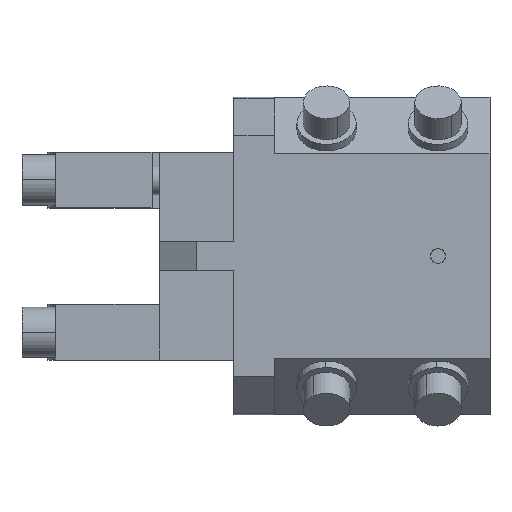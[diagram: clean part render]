
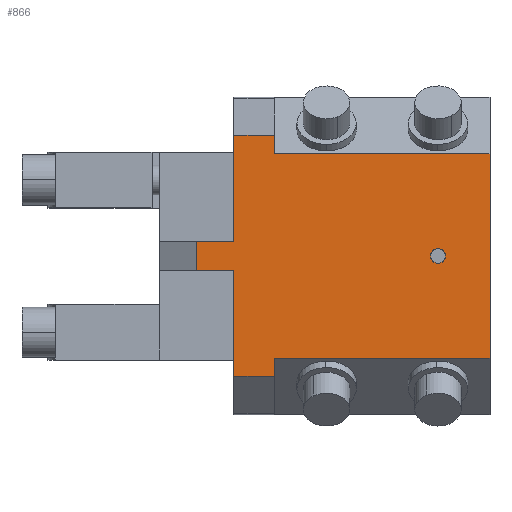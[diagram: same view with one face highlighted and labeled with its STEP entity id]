
A CAD part, top view. The second image highlights one B-rep face of the part: STEP entity #866.
In plain terms, the highlighted planar face has unit normal (0, 0, 1).
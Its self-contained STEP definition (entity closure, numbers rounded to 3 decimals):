
#866=ADVANCED_FACE('Solid.24',(#2068,#2069),#2070,.T.);
#2068=FACE_OUTER_BOUND('',#3757,.T.);
#2069=FACE_BOUND('',#3758,.T.);
#2070=PLANE('',#3759);
#3757=EDGE_LOOP('',(#5837,#5838,#5839,#5840,#5841,#5842,#5843,#5844,#5845,#5846,#5847,#5848));
#3758=EDGE_LOOP('',(#5849,#5850,#5851,#5852));
#3759=AXIS2_PLACEMENT_3D('',#5853,#5854,#5855);
#5837=ORIENTED_EDGE('',*,*,#10068,.T.);
#5838=ORIENTED_EDGE('',*,*,#10069,.T.);
#5839=ORIENTED_EDGE('',*,*,#10070,.F.);
#5840=ORIENTED_EDGE('',*,*,#10071,.F.);
#5841=ORIENTED_EDGE('',*,*,#10072,.T.);
#5842=ORIENTED_EDGE('',*,*,#10073,.T.);
#5843=ORIENTED_EDGE('',*,*,#10074,.F.);
#5844=ORIENTED_EDGE('',*,*,#10075,.F.);
#5845=ORIENTED_EDGE('',*,*,#10047,.T.);
#5846=ORIENTED_EDGE('',*,*,#10042,.T.);
#5847=ORIENTED_EDGE('',*,*,#10064,.F.);
#5848=ORIENTED_EDGE('',*,*,#10076,.F.);
#5849=ORIENTED_EDGE('',*,*,#9729,.F.);
#5850=ORIENTED_EDGE('',*,*,#9723,.F.);
#5851=ORIENTED_EDGE('',*,*,#10077,.F.);
#5852=ORIENTED_EDGE('',*,*,#10078,.F.);
#5853=CARTESIAN_POINT('',(75.0,27.5,49.5));
#5854=DIRECTION('',(-0.0,0.0,1.0));
#5855=DIRECTION('',(0.0,-1.0,0.0));
#9723=EDGE_CURVE('',#11559,#11562,#11563,.T.);
#9729=EDGE_CURVE('',#11562,#11569,#11572,.T.);
#10042=EDGE_CURVE('',#12062,#12063,#12064,.T.);
#10047=EDGE_CURVE('',#12070,#12062,#12071,.F.);
#10064=EDGE_CURVE('',#12096,#12063,#12098,.F.);
#10068=EDGE_CURVE('',#12103,#12104,#12105,.T.);
#10069=EDGE_CURVE('',#12104,#12106,#12107,.T.);
#10070=EDGE_CURVE('',#12108,#12106,#12109,.F.);
#10071=EDGE_CURVE('',#12110,#12108,#12111,.T.);
#10072=EDGE_CURVE('',#12110,#12112,#12113,.F.);
#10073=EDGE_CURVE('',#12112,#12114,#12115,.T.);
#10074=EDGE_CURVE('',#12116,#12114,#12117,.T.);
#10075=EDGE_CURVE('',#12070,#12116,#12118,.T.);
#10076=EDGE_CURVE('',#12103,#12096,#12119,.T.);
#10077=EDGE_CURVE('',#12120,#11559,#12121,.T.);
#10078=EDGE_CURVE('',#11569,#12120,#12122,.T.);
#11559=VERTEX_POINT('',#14297);
#11562=VERTEX_POINT('',#14301);
#11563=CIRCLE('',#14302,2.0);
#11569=VERTEX_POINT('',#14309);
#11572=CIRCLE('',#14313,2.0);
#12062=VERTEX_POINT('',#15754);
#12063=VERTEX_POINT('',#15755);
#12064=LINE('',#15756,#15757);
#12070=VERTEX_POINT('',#15766);
#12071=LINE('',#15767,#15768);
#12096=VERTEX_POINT('',#15818);
#12098=LINE('',#15821,#15822);
#12103=VERTEX_POINT('',#15828);
#12104=VERTEX_POINT('',#15829);
#12105=LINE('',#15830,#15831);
#12106=VERTEX_POINT('',#15832);
#12107=LINE('',#15833,#15834);
#12108=VERTEX_POINT('',#15835);
#12109=LINE('',#15836,#15837);
#12110=VERTEX_POINT('',#15838);
#12111=LINE('',#15839,#15840);
#12112=VERTEX_POINT('',#15841);
#12113=LINE('',#15842,#15843);
#12114=VERTEX_POINT('',#15844);
#12115=LINE('',#15845,#15846);
#12116=VERTEX_POINT('',#15847);
#12117=LINE('',#15848,#15849);
#12118=LINE('',#15850,#15851);
#12119=LINE('',#15852,#15853);
#12120=VERTEX_POINT('',#15854);
#12121=CIRCLE('',#15855,2.0);
#12122=CIRCLE('',#15856,2.0);
#14297=CARTESIAN_POINT('',(73.0,0.,49.5));
#14301=CARTESIAN_POINT('',(73.245,-0.959,49.5));
#14302=AXIS2_PLACEMENT_3D('',#19224,#19225,#19226);
#14309=CARTESIAN_POINT('',(77.0,0.,49.5));
#14313=AXIS2_PLACEMENT_3D('',#19235,#19236,#19237);
#15754=CARTESIAN_POINT('',(31.0,32.438,49.5));
#15755=CARTESIAN_POINT('',(20.0,32.438,49.5));
#15756=CARTESIAN_POINT('',(25.5,32.438,49.5));
#15757=VECTOR('',#19609,1.0);
#15766=CARTESIAN_POINT('',(31.0,27.5,49.5));
#15767=CARTESIAN_POINT('',(31.0,29.969,49.5));
#15768=VECTOR('',#19613,1.0);
#15818=CARTESIAN_POINT('',(20.0,4.0,49.5));
#15821=CARTESIAN_POINT('',(20.0,18.219,49.5));
#15822=VECTOR('',#19626,1.0);
#15828=CARTESIAN_POINT('',(10.0,4.0,49.5));
#15829=CARTESIAN_POINT('',(10.0,-4.0,49.5));
#15830=CARTESIAN_POINT('',(10.0,0.0,49.5));
#15831=VECTOR('',#19631,1.0);
#15832=CARTESIAN_POINT('',(20.0,-4.0,49.5));
#15833=CARTESIAN_POINT('',(15.0,-4.0,49.5));
#15834=VECTOR('',#19632,1.0);
#15835=CARTESIAN_POINT('',(20.0,-32.438,49.5));
#15836=CARTESIAN_POINT('',(20.0,-18.219,49.5));
#15837=VECTOR('',#19633,1.0);
#15838=CARTESIAN_POINT('',(31.0,-32.438,49.5));
#15839=CARTESIAN_POINT('',(25.5,-32.438,49.5));
#15840=VECTOR('',#19634,1.0);
#15841=CARTESIAN_POINT('',(31.0,-27.5,49.5));
#15842=CARTESIAN_POINT('',(31.0,-29.969,49.5));
#15843=VECTOR('',#19635,1.0);
#15844=CARTESIAN_POINT('',(89.0,-27.5,49.5));
#15845=CARTESIAN_POINT('',(60.0,-27.5,49.5));
#15846=VECTOR('',#19636,1.0);
#15847=CARTESIAN_POINT('',(89.0,27.5,49.5));
#15848=CARTESIAN_POINT('',(89.0,0.0,49.5));
#15849=VECTOR('',#19637,1.0);
#15850=CARTESIAN_POINT('',(60.0,27.5,49.5));
#15851=VECTOR('',#19638,1.0);
#15852=CARTESIAN_POINT('',(15.0,4.0,49.5));
#15853=VECTOR('',#19639,1.0);
#15854=CARTESIAN_POINT('',(76.755,0.959,49.5));
#15855=AXIS2_PLACEMENT_3D('',#19640,#19641,#19642);
#15856=AXIS2_PLACEMENT_3D('',#19643,#19644,#19645);
#19224=CARTESIAN_POINT('',(75.0,0.,49.5));
#19225=DIRECTION('',(-0.0,0.0,1.0));
#19226=DIRECTION('',(0.0,-1.0,0.0));
#19235=CARTESIAN_POINT('',(75.0,0.,49.5));
#19236=DIRECTION('',(-0.0,0.0,1.0));
#19237=DIRECTION('',(0.0,-1.0,0.0));
#19609=DIRECTION('',(-1.0,0.0,0.0));
#19613=DIRECTION('',(0.0,-1.0,0.0));
#19626=DIRECTION('',(0.0,-1.0,0.0));
#19631=DIRECTION('',(0.0,-1.0,0.0));
#19632=DIRECTION('',(1.0,0.0,0.0));
#19633=DIRECTION('',(0.0,-1.0,0.0));
#19634=DIRECTION('',(-1.0,0.0,0.0));
#19635=DIRECTION('',(0.0,-1.0,0.0));
#19636=DIRECTION('',(1.0,0.0,0.0));
#19637=DIRECTION('',(0.0,-1.0,0.0));
#19638=DIRECTION('',(1.0,0.0,0.0));
#19639=DIRECTION('',(1.0,0.0,0.0));
#19640=CARTESIAN_POINT('',(75.0,0.,49.5));
#19641=DIRECTION('',(-0.0,0.0,1.0));
#19642=DIRECTION('',(0.0,-1.0,0.0));
#19643=CARTESIAN_POINT('',(75.0,0.,49.5));
#19644=DIRECTION('',(-0.0,0.0,1.0));
#19645=DIRECTION('',(0.0,-1.0,0.0));
